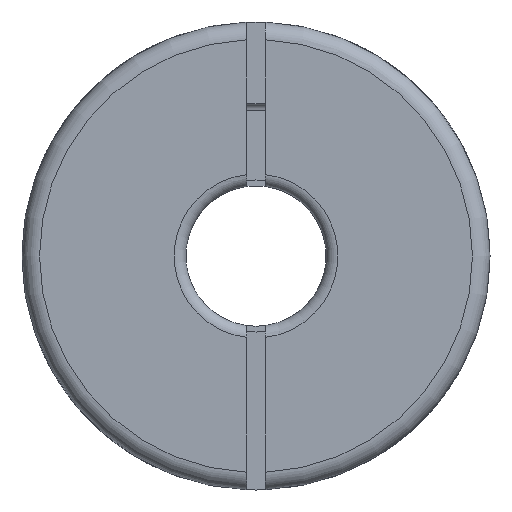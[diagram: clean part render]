
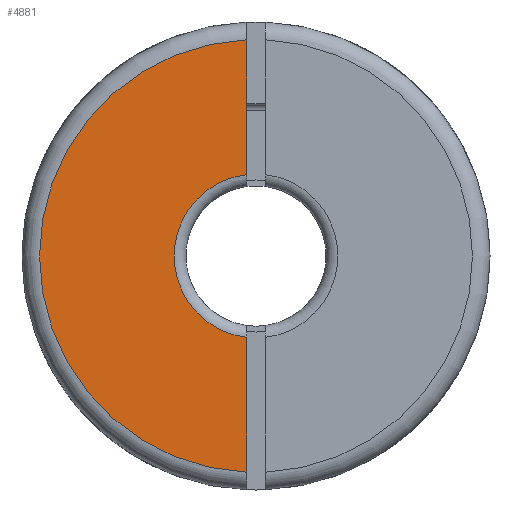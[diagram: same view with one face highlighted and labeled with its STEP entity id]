
A CAD part, left-side view. The second image highlights one B-rep face of the part: STEP entity #4881.
In plain terms, the highlighted planar face has unit normal (-1, 0, 0).
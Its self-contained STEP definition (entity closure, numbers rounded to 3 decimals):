
#118 = CARTESIAN_POINT ( 'NONE',  ( -10., 0.4, -9.241 ) ) ;
#358 = DIRECTION ( 'NONE',  ( 0., 0., -1. ) ) ;
#369 = DIRECTION ( 'NONE',  ( 1., 0., 0. ) ) ;
#415 = CARTESIAN_POINT ( 'NONE',  ( -10., 0., 0. ) ) ;
#553 = CARTESIAN_POINT ( 'NONE',  ( -10., 0.4, -3.477 ) ) ;
#572 = AXIS2_PLACEMENT_3D ( 'NONE', #3801, #3710, #3475 ) ;
#696 = CARTESIAN_POINT ( 'NONE',  ( -10., 0.4, 3.477 ) ) ;
#822 = VERTEX_POINT ( 'NONE', #2499 ) ;
#1016 = EDGE_CURVE ( 'NONE', #822, #2975, #4458, .T. ) ;
#1086 = EDGE_CURVE ( 'NONE', #3780, #3202, #2378, .T. ) ;
#1181 = DIRECTION ( 'NONE',  ( 0., 0., -1. ) ) ;
#1189 = DIRECTION ( 'NONE',  ( -1., 0., 0. ) ) ;
#1234 = CARTESIAN_POINT ( 'NONE',  ( -10., 0., 0. ) ) ;
#1277 = EDGE_CURVE ( 'NONE', #2975, #3780, #3746, .T. ) ;
#1329 = EDGE_CURVE ( 'NONE', #3202, #822, #3396, .T. ) ;
#1689 = AXIS2_PLACEMENT_3D ( 'NONE', #1234, #1189, #1181 ) ;
#1721 = DIRECTION ( 'NONE',  ( 0., 0., 1. ) ) ;
#1803 = DIRECTION ( 'NONE',  ( 0., 0., 1. ) ) ;
#1809 = CARTESIAN_POINT ( 'NONE',  ( -10., 0.4, 9.992 ) ) ;
#1866 = PLANE ( 'NONE',  #572 ) ;
#1877 = CARTESIAN_POINT ( 'NONE',  ( -10., 0.4, 9.992 ) ) ;
#2344 = EDGE_LOOP ( 'NONE', ( #3074, #2961, #3305, #3356 ) ) ;
#2378 = CIRCLE ( 'NONE', #3646, 3.5 ) ;
#2431 = VECTOR ( 'NONE', #1721, 1000. ) ;
#2499 = CARTESIAN_POINT ( 'NONE',  ( -10., 0.4, 9.241 ) ) ;
#2961 = ORIENTED_EDGE ( 'NONE', *, *, #1086, .T. ) ;
#2975 = VERTEX_POINT ( 'NONE', #118 ) ;
#3074 = ORIENTED_EDGE ( 'NONE', *, *, #1277, .T. ) ;
#3202 = VERTEX_POINT ( 'NONE', #696 ) ;
#3305 = ORIENTED_EDGE ( 'NONE', *, *, #1329, .T. ) ;
#3356 = ORIENTED_EDGE ( 'NONE', *, *, #1016, .T. ) ;
#3396 = LINE ( 'NONE', #1809, #2431 ) ;
#3475 = DIRECTION ( 'NONE',  ( 0., 0., -1. ) ) ;
#3646 = AXIS2_PLACEMENT_3D ( 'NONE', #415, #369, #358 ) ;
#3710 = DIRECTION ( 'NONE',  ( 1., 0., 0. ) ) ;
#3746 = LINE ( 'NONE', #1877, #4645 ) ;
#3780 = VERTEX_POINT ( 'NONE', #553 ) ;
#3801 = CARTESIAN_POINT ( 'NONE',  ( -10., 0., 0. ) ) ;
#4393 = FACE_OUTER_BOUND ( 'NONE', #2344, .T. ) ;
#4458 = CIRCLE ( 'NONE', #1689, 9.25 ) ;
#4645 = VECTOR ( 'NONE', #1803, 1000. ) ;
#4881 = ADVANCED_FACE ( 'NONE', ( #4393 ), #1866, .F. ) ;
